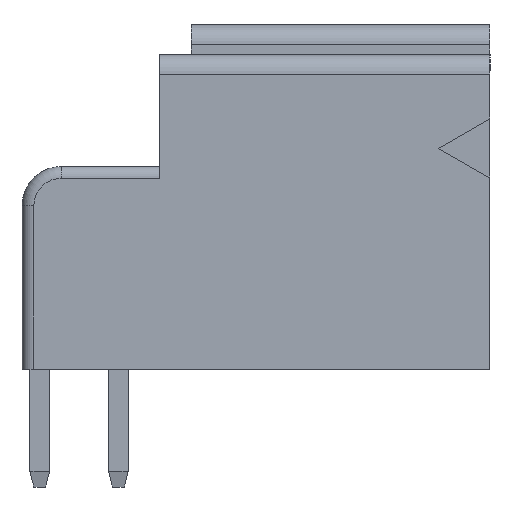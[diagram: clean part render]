
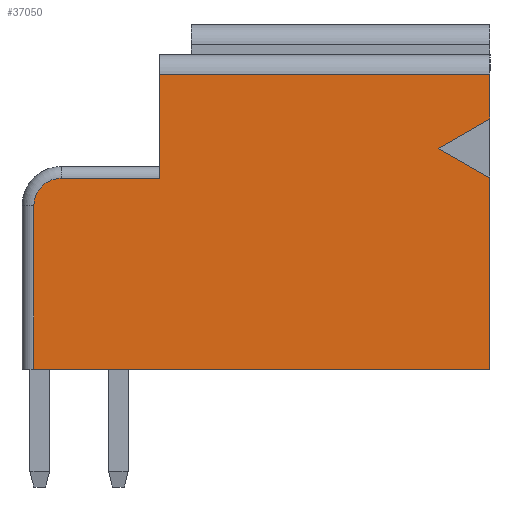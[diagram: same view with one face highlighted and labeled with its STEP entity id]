
A CAD part, left-side view. The second image highlights one B-rep face of the part: STEP entity #37050.
In plain terms, the highlighted planar face has unit normal (-1, 0, 0) as drawn and (0, 1, 0) by its records, which use the part's own axes.
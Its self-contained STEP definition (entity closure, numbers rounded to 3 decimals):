
#1650=CARTESIAN_POINT('',(276.884,66.111,
1.766));
#1660=VERTEX_POINT('',#1650);
#1690=CARTESIAN_POINT('',(276.884,66.111,
0.));
#1700=DIRECTION('',(0.,0.,1.));
#1710=VECTOR('',#1700,1.);
#1720=LINE('',#1690,#1710);
#1730=CARTESIAN_POINT('',(276.884,66.111,
4.416));
#1740=VERTEX_POINT('',#1730);
#1750=EDGE_CURVE('',#1660,#1740,#1720,.T.);
#8970=CARTESIAN_POINT('',(283.985,66.111,
3.659));
#8980=VERTEX_POINT('',#8970);
#9150=CARTESIAN_POINT('',(285.284,66.111,
4.409));
#9160=VERTEX_POINT('',#9150);
#9190=CARTESIAN_POINT('',(0.,66.111,-160.3));
#9200=DIRECTION('',(0.866,0.,
0.5));
#9210=VECTOR('',#9200,1.);
#9220=LINE('',#9190,#9210);
#9230=EDGE_CURVE('',#8980,#9160,#9220,.T.);
#15260=CARTESIAN_POINT('',(273.684,66.111,
9.266));
#15270=VERTEX_POINT('',#15260);
#15360=CARTESIAN_POINT('',(273.684,66.111,
5.116));
#15370=VERTEX_POINT('',#15360);
#15400=CARTESIAN_POINT('',(273.684,66.111,
0.));
#15410=DIRECTION('',(0.,0.,-1.));
#15420=VECTOR('',#15410,1.);
#15430=LINE('',#15400,#15420);
#15440=EDGE_CURVE('',#15270,#15370,#15430,.T.);
#20630=CARTESIAN_POINT('',(285.284,66.111,
1.766));
#20640=VERTEX_POINT('',#20630);
#20670=CARTESIAN_POINT('',(0.,66.111,
1.766));
#20680=DIRECTION('',(1.,0.,0.));
#20690=VECTOR('',#20680,1.);
#20700=LINE('',#20670,#20690);
#20710=EDGE_CURVE('',#1660,#20640,#20700,.T.);
#22760=CARTESIAN_POINT('',(0.,66.111,9.266));
#22770=DIRECTION('',(1.,0.,0.));
#22780=VECTOR('',#22770,1.);
#22790=LINE('',#22760,#22780);
#22800=CARTESIAN_POINT('',(285.284,66.111,
9.266));
#22810=VERTEX_POINT('',#22800);
#22820=EDGE_CURVE('',#15270,#22810,#22790,.T.);
#26420=CARTESIAN_POINT('',(285.284,66.111,
2.909));
#26430=VERTEX_POINT('',#26420);
#26550=CARTESIAN_POINT('',(0.,66.111,167.617));
#26560=DIRECTION('',(-0.866,0.,
0.5));
#26570=VECTOR('',#26560,1.);
#26580=LINE('',#26550,#26570);
#26590=EDGE_CURVE('',#26430,#8980,#26580,.T.);
#31460=CARTESIAN_POINT('',(285.284,66.111,0.));
#31470=DIRECTION('',(0.,0.,-1.));
#31480=VECTOR('',#31470,1.);
#31490=LINE('',#31460,#31480);
#31500=EDGE_CURVE('',#22810,#9160,#31490,.T.);
#31600=EDGE_CURVE('',#26430,#20640,#31490,.T.);
#36750=CARTESIAN_POINT('',(279.409,66.111,
5.516));
#36760=DIRECTION('',(0.,-1.,0.));
#36770=DIRECTION('',(-1.,0.,0.));
#36780=AXIS2_PLACEMENT_3D('',#36750,#36760,#36770);
#36790=PLANE('',#36780);
#36800=ORIENTED_EDGE('',*,*,#22820,.T.);
#36810=ORIENTED_EDGE('',*,*,#15440,.F.);
#36820=CARTESIAN_POINT('',(274.384,66.111,
5.116));
#36830=DIRECTION('',(0.,-1.,0.));
#36840=DIRECTION('',(0.,0.,1.));
#36850=AXIS2_PLACEMENT_3D('',#36820,#36830,#36840);
#36860=CIRCLE('',#36850,0.7);
#36870=CARTESIAN_POINT('',(274.384,66.111,
4.416));
#36880=VERTEX_POINT('',#36870);
#36890=EDGE_CURVE('',#15370,#36880,#36860,.T.);
#36900=ORIENTED_EDGE('',*,*,#36890,.F.);
#36910=CARTESIAN_POINT('',(0.,66.111,
4.416));
#36920=DIRECTION('',(1.,0.,0.));
#36930=VECTOR('',#36920,1.);
#36940=LINE('',#36910,#36930);
#36950=EDGE_CURVE('',#36880,#1740,#36940,.T.);
#36960=ORIENTED_EDGE('',*,*,#36950,.F.);
#36970=ORIENTED_EDGE('',*,*,#1750,.T.);
#36980=ORIENTED_EDGE('',*,*,#20710,.F.);
#36990=ORIENTED_EDGE('',*,*,#31600,.T.);
#37000=ORIENTED_EDGE('',*,*,#26590,.F.);
#37010=ORIENTED_EDGE('',*,*,#9230,.F.);
#37020=ORIENTED_EDGE('',*,*,#31500,.T.);
#37030=EDGE_LOOP('',(#37020,#37010,#37000,#36990,#36980,#36970,#36960,
#36900,#36810,#36800));
#37040=FACE_OUTER_BOUND('',#37030,.T.);
#37050=ADVANCED_FACE('',(#37040),#36790,.F.);
